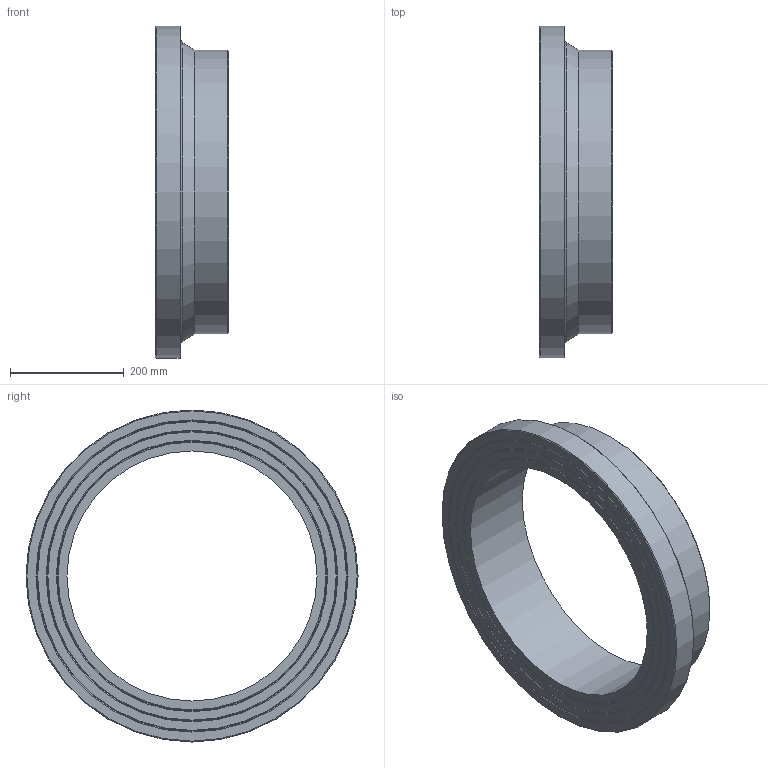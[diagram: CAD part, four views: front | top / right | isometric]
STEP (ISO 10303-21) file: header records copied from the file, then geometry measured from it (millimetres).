
FILE_DESCRIPTION(/* description */ ('Unknown'),/* implementation_level */ '2;1');
FILE_NAME(/* name */ 'CCP500B',/* time_stamp */ '2022-04-05T08:37:05+02:00',/* author */ ('Unknown'),/* organization */ ('Unknown'),/* preprocessor_version */ 'ST-DEVELOPER v18.1',/* originating_system */ 'Solid Edge',/* authorisation */ 'Unknown');
FILE_SCHEMA (('AUTOMOTIVE_DESIGN {1 0 10303 214 3 1 1}'));
Length unit declared in the file: millimetre
Products named in the file (1): CCP500B
Bounding box: 129 x 585 x 585 mm (x, y, z)
Volume: 9194532.9 mm3; surface area: 606628 mm2
Topology: 1 solids, 1 shells, 20 faces, 35 edges, 21 vertices
Faces by surface type: cone 10, plane 6, cylinder 3, torus 1
Full cylindrical faces by diameter (mm): 440.6 x1, 500 x1, 585 x1
Entity records: 438 total; most frequent: DIRECTION 82, CARTESIAN_POINT 61, AXIS2_PLACEMENT_3D 41, ORIENTED_EDGE 40, EDGE_LOOP 40, FACE_BOUND 40, EDGE_CURVE 20, VERTEX_POINT 20
